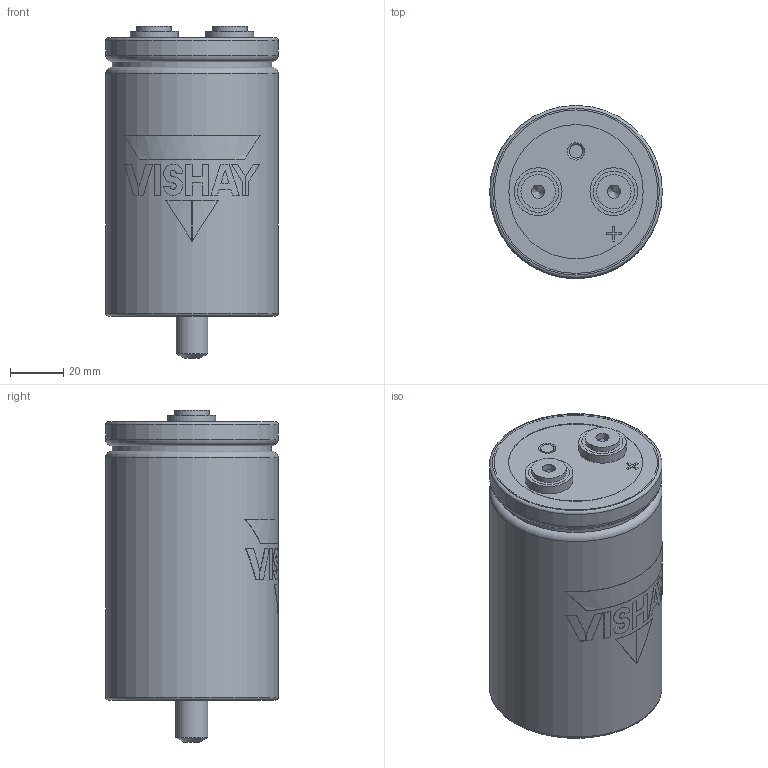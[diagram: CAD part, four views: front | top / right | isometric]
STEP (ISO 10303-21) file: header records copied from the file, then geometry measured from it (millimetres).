
FILE_DESCRIPTION(('FreeCAD Model'),'2;1');
FILE_NAME('C:/Users/tvandesteeg/Documents/Documents/FreeCAD/Stepfiles/ST capacitors/STB_LP_M6_65x105.step','2020-07-02T17:57:55',('Author'),(''), 'Open CASCADE STEP processor 7.3','FreeCAD','Unknown');
FILE_SCHEMA(('AUTOMOTIVE_DESIGN { 1 0 10303 214 1 1 1 1 }'));
Length unit declared in the file: millimetre
Products named in the file (7): VentBody; TerminalBody_(Mirror_#2); TerminalBody; STBBottomBody; Disc; LogoPrint; CanBody
Bounding box: 65 x 65.1 x 125 mm (x, y, z)
Volume: 346702.6 mm3; surface area: 49010 mm2
Topology: 17 solids, 17 shells, 152 faces, 318 edges, 209 vertices
Faces by surface type: plane 94, cylinder 49, torus 5, cone 4
Full cylindrical faces by diameter (mm): 5 x4, 11.966 x1, 13 x2, 15.5 x6, 18 x2, 50.556 x3, 60 x1, 60.6 x2, 65 x2
Entity records: 10758 total; most frequent: CARTESIAN_POINT 3348, DIRECTION 1228, ORIENTED_EDGE 632, PCURVE 632, DEFINITIONAL_REPRESENTATION 632, LINE 542, VECTOR 542, EDGE_CURVE 316
